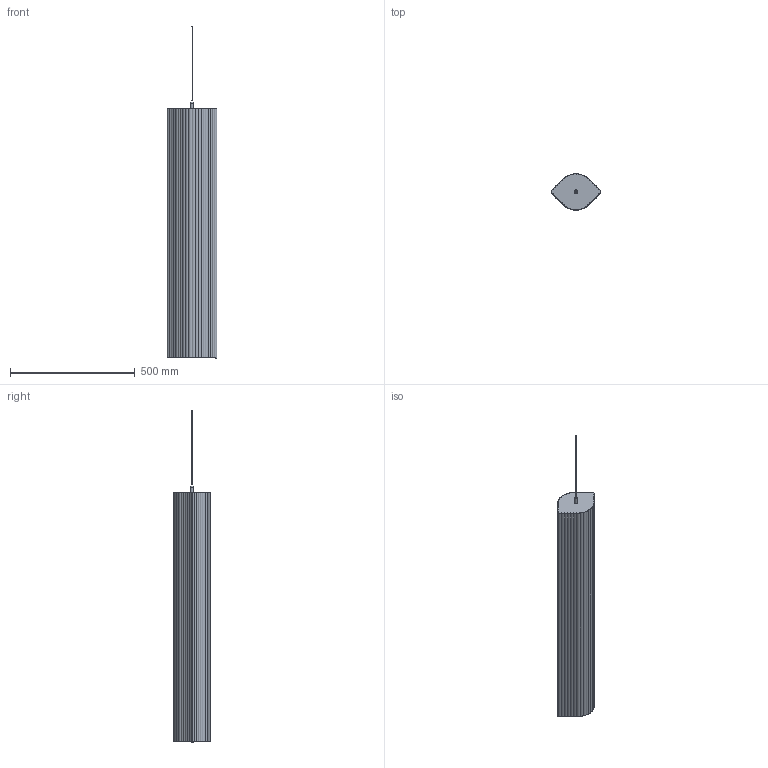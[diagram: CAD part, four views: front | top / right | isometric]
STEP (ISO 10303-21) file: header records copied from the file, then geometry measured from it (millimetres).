
FILE_DESCRIPTION(/* description */ ('','CAx-IF Rec.Pracs.---Representation and Presentation of Product Manufacturing Information (PMI)---4.0---2014-10-13'),/* implementation_level */ '2;1');
FILE_NAME(/* name */ 'MOSS_HANG_STEP.step',/* time_stamp */ '2025-01-14T15:56:51+01:00',/* author */ (''),/* organization */ (''),/* preprocessor_version */ 'ST-DEVELOPER v20',/* originating_system */ 'Autodesk Translation Framework v13.20.0.188',/* authorisation */ '');
FILE_SCHEMA (('AP242_MANAGED_MODEL_BASED_3D_ENGINEERING_MIM_LF { 1 0 10303 442 1 1 4 }'));
Length unit declared in the file: millimetre
Products named in the file (5): 1.0_MOSS_HANG; Components; 1.1_MOSS_HANG; 1.2_MOSS_HANG; Závěsné lanko - MUTE v4
Assembly tree (4 placements, depth 4):
  1.0_MOSS_HANG
    Components
      1.1_MOSS_HANG
      1.2_MOSS_HANG
        Závěsné lanko - MUTE v4
Bounding box: 200 x 145.88 x 1332 mm (x, y, z)
Volume: 18737118.1 mm3; surface area: 604011.8 mm2
Topology: 2 solids, 2 shells, 67 faces, 183 edges, 114 vertices
Faces by surface type: cylinder 56, plane 10, bspline 1
Full cylindrical faces by diameter (mm): 1.5 x1, 4 x1, 12 x1, 15 x1
Entity records: 2337 total; most frequent: DIRECTION 448, CARTESIAN_POINT 399, ORIENTED_EDGE 366, AXIS2_PLACEMENT_3D 190, EDGE_CURVE 183, CIRCLE 115, VERTEX_POINT 114, EDGE_LOOP 69
